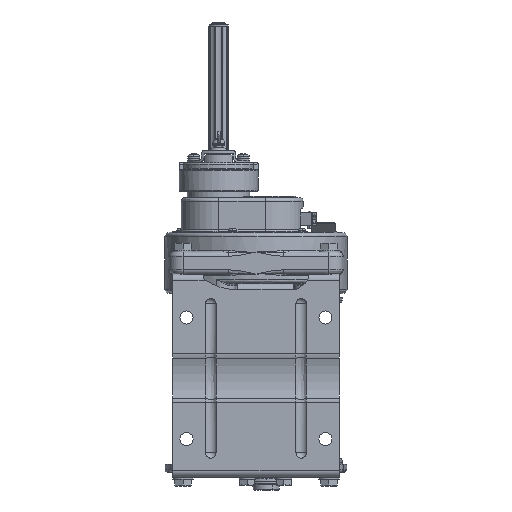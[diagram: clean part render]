
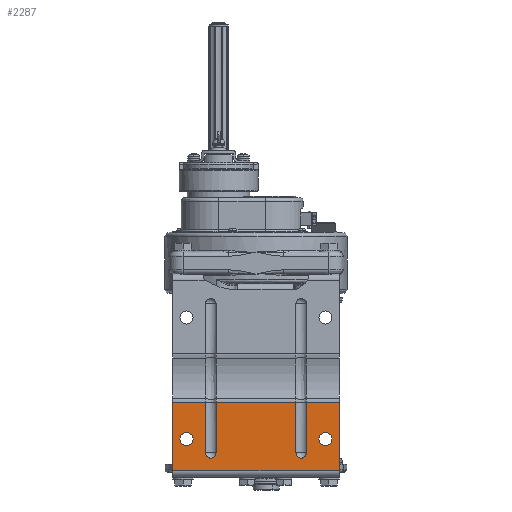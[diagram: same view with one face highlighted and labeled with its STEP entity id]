
A CAD part, front view. The second image highlights one B-rep face of the part: STEP entity #2287.
In plain terms, the highlighted planar face has unit normal (0, -1, 0).
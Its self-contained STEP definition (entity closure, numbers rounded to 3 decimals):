
#2287=ADVANCED_FACE('',(#25031,#25032,#25033),#25030,.T.);
#25030=PLANE('',#49506);
#25031=FACE_OUTER_BOUND('',#49507,.T.);
#25032=FACE_BOUND('',#49508,.T.);
#25033=FACE_BOUND('',#49509,.T.);
#49503=CARTESIAN_POINT('',(11.,-36.383,-259.95));
#49504=DIRECTION('',(0.,-1.,0.));
#49505=DIRECTION('',(0.,0.,1.));
#49506=AXIS2_PLACEMENT_3D('',#49503,#49504,#49505);
#49507=EDGE_LOOP('',(#67343,#67344,#67345,#67346,#67347,#67348,#67349,#67350,#67351,#67352,#67353,#67354));
#49508=EDGE_LOOP('',(#67355,#67356));
#49509=EDGE_LOOP('',(#67357,#67358));
#67343=ORIENTED_EDGE('',*,*,#77596,.F.);
#67344=ORIENTED_EDGE('',*,*,#77607,.F.);
#67345=ORIENTED_EDGE('',*,*,#77576,.T.);
#67346=ORIENTED_EDGE('',*,*,#77608,.T.);
#67347=ORIENTED_EDGE('',*,*,#77609,.F.);
#67348=ORIENTED_EDGE('',*,*,#77610,.T.);
#67349=ORIENTED_EDGE('',*,*,#77611,.T.);
#67350=ORIENTED_EDGE('',*,*,#77612,.T.);
#67351=ORIENTED_EDGE('',*,*,#77613,.F.);
#67352=ORIENTED_EDGE('',*,*,#77614,.F.);
#67353=ORIENTED_EDGE('',*,*,#77615,.T.);
#67354=ORIENTED_EDGE('',*,*,#77616,.T.);
#67355=ORIENTED_EDGE('',*,*,#77617,.F.);
#67356=ORIENTED_EDGE('',*,*,#77618,.F.);
#67357=ORIENTED_EDGE('',*,*,#77619,.F.);
#67358=ORIENTED_EDGE('',*,*,#77620,.F.);
#77576=EDGE_CURVE('',#120136,#120137,#120138,.T.);
#77596=EDGE_CURVE('',#120265,#120272,#120273,.T.);
#77607=EDGE_CURVE('',#120136,#120265,#120347,.T.);
#77608=EDGE_CURVE('',#120137,#120353,#120354,.T.);
#77609=EDGE_CURVE('',#120360,#120353,#120361,.T.);
#77610=EDGE_CURVE('',#120360,#120367,#120368,.T.);
#77611=EDGE_CURVE('',#120367,#120374,#120375,.T.);
#77612=EDGE_CURVE('',#120374,#120381,#120382,.T.);
#77613=EDGE_CURVE('',#120388,#120381,#120389,.T.);
#77614=EDGE_CURVE('',#120395,#120388,#120396,.T.);
#77615=EDGE_CURVE('',#120395,#120402,#120403,.T.);
#77616=EDGE_CURVE('',#120402,#120272,#120409,.T.);
#77617=EDGE_CURVE('',#120415,#120416,#120417,.T.);
#77618=EDGE_CURVE('',#120416,#120415,#120423,.T.);
#77619=EDGE_CURVE('',#120429,#120430,#120431,.T.);
#77620=EDGE_CURVE('',#120430,#120429,#120437,.T.);
#120136=VERTEX_POINT('',#157444);
#120137=VERTEX_POINT('',#157445);
#120138=LINE('',#157446,#157447);
#120265=VERTEX_POINT('',#157524);
#120272=VERTEX_POINT('',#157529);
#120273=LINE('',#157530,#157531);
#120347=LINE('',#157578,#157579);
#120353=VERTEX_POINT('',#157581);
#120354=LINE('',#157582,#157583);
#120360=VERTEX_POINT('',#157585);
#120361=LINE('',#157586,#157587);
#120367=VERTEX_POINT('',#157589);
#120368=CIRCLE('',#157593,6.);
#120374=VERTEX_POINT('',#157594);
#120375=LINE('',#157595,#157596);
#120381=VERTEX_POINT('',#157598);
#120382=LINE('',#157599,#157600);
#120388=VERTEX_POINT('',#157602);
#120389=LINE('',#157603,#157604);
#120395=VERTEX_POINT('',#157606);
#120396=CIRCLE('',#157610,6.);
#120402=VERTEX_POINT('',#157611);
#120403=LINE('',#157612,#157613);
#120409=LINE('',#157615,#157616);
#120415=VERTEX_POINT('',#157618);
#120416=VERTEX_POINT('',#157619);
#120417=CIRCLE('',#157623,7.5);
#120423=CIRCLE('',#157627,7.5);
#120429=VERTEX_POINT('',#157628);
#120430=VERTEX_POINT('',#157629);
#120431=CIRCLE('',#157633,7.5);
#120437=CIRCLE('',#157637,7.5);
#157444=CARTESIAN_POINT('',(1.,-36.383,-252.1));
#157445=CARTESIAN_POINT('',(1.,-36.383,-173.596));
#157446=CARTESIAN_POINT('',(1.,-36.383,-252.1));
#157447=VECTOR('',#157448,78.504);
#157448=DIRECTION('',(0.,0.,1.));
#157524=CARTESIAN_POINT('',(-191.,-36.383,-252.1));
#157529=CARTESIAN_POINT('',(-191.,-36.383,-173.596));
#157530=CARTESIAN_POINT('',(-191.,-36.383,-252.1));
#157531=VECTOR('',#157532,78.504);
#157532=DIRECTION('',(0.,0.,1.));
#157578=CARTESIAN_POINT('',(1.,-36.383,-252.1));
#157579=VECTOR('',#157580,192.);
#157580=DIRECTION('',(-1.,0.,0.));
#157581=CARTESIAN_POINT('',(-37.,-36.383,-173.596));
#157582=CARTESIAN_POINT('',(1.,-36.383,-173.596));
#157583=VECTOR('',#157584,38.);
#157584=DIRECTION('',(-1.,0.,0.));
#157585=CARTESIAN_POINT('',(-37.,-36.383,-231.302));
#157586=CARTESIAN_POINT('',(-37.,-36.383,-231.302));
#157587=VECTOR('',#157588,57.706);
#157588=DIRECTION('',(0.,0.,1.));
#157589=CARTESIAN_POINT('',(-49.,-36.383,-231.302));
#157590=CARTESIAN_POINT('',(-43.,-36.383,-231.302));
#157591=DIRECTION('',(0.,1.,0.));
#157592=DIRECTION('',(1.,0.,0.));
#157593=AXIS2_PLACEMENT_3D('',#157590,#157591,#157592);
#157594=CARTESIAN_POINT('',(-49.,-36.383,-173.596));
#157595=CARTESIAN_POINT('',(-49.,-36.383,-231.302));
#157596=VECTOR('',#157597,57.706);
#157597=DIRECTION('',(0.,0.,1.));
#157598=CARTESIAN_POINT('',(-141.,-36.383,-173.596));
#157599=CARTESIAN_POINT('',(-49.,-36.383,-173.596));
#157600=VECTOR('',#157601,92.);
#157601=DIRECTION('',(-1.,0.,0.));
#157602=CARTESIAN_POINT('',(-141.,-36.383,-231.302));
#157603=CARTESIAN_POINT('',(-141.,-36.383,-231.302));
#157604=VECTOR('',#157605,57.706);
#157605=DIRECTION('',(0.,0.,1.));
#157606=CARTESIAN_POINT('',(-153.,-36.383,-231.302));
#157607=CARTESIAN_POINT('',(-147.,-36.383,-231.302));
#157608=DIRECTION('',(0.,-1.,0.));
#157609=DIRECTION('',(1.,0.,0.));
#157610=AXIS2_PLACEMENT_3D('',#157607,#157608,#157609);
#157611=CARTESIAN_POINT('',(-153.,-36.383,-173.596));
#157612=CARTESIAN_POINT('',(-153.,-36.383,-231.302));
#157613=VECTOR('',#157614,57.706);
#157614=DIRECTION('',(0.,0.,1.));
#157615=CARTESIAN_POINT('',(-153.,-36.383,-173.596));
#157616=VECTOR('',#157617,38.);
#157617=DIRECTION('',(-1.,0.,0.));
#157618=CARTESIAN_POINT('',(-15.,-36.383,-222.9));
#157619=CARTESIAN_POINT('',(-15.,-36.383,-207.9));
#157620=CARTESIAN_POINT('',(-15.,-36.383,-215.4));
#157621=DIRECTION('',(0.,-1.,0.));
#157622=DIRECTION('',(0.,0.,1.));
#157623=AXIS2_PLACEMENT_3D('',#157620,#157621,#157622);
#157624=CARTESIAN_POINT('',(-15.,-36.383,-215.4));
#157625=DIRECTION('',(0.,-1.,0.));
#157626=DIRECTION('',(0.,0.,1.));
#157627=AXIS2_PLACEMENT_3D('',#157624,#157625,#157626);
#157628=CARTESIAN_POINT('',(-175.,-36.383,-222.9));
#157629=CARTESIAN_POINT('',(-175.,-36.383,-207.9));
#157630=CARTESIAN_POINT('',(-175.,-36.383,-215.4));
#157631=DIRECTION('',(0.,-1.,0.));
#157632=DIRECTION('',(0.,0.,1.));
#157633=AXIS2_PLACEMENT_3D('',#157630,#157631,#157632);
#157634=CARTESIAN_POINT('',(-175.,-36.383,-215.4));
#157635=DIRECTION('',(0.,-1.,0.));
#157636=DIRECTION('',(0.,0.,1.));
#157637=AXIS2_PLACEMENT_3D('',#157634,#157635,#157636);
